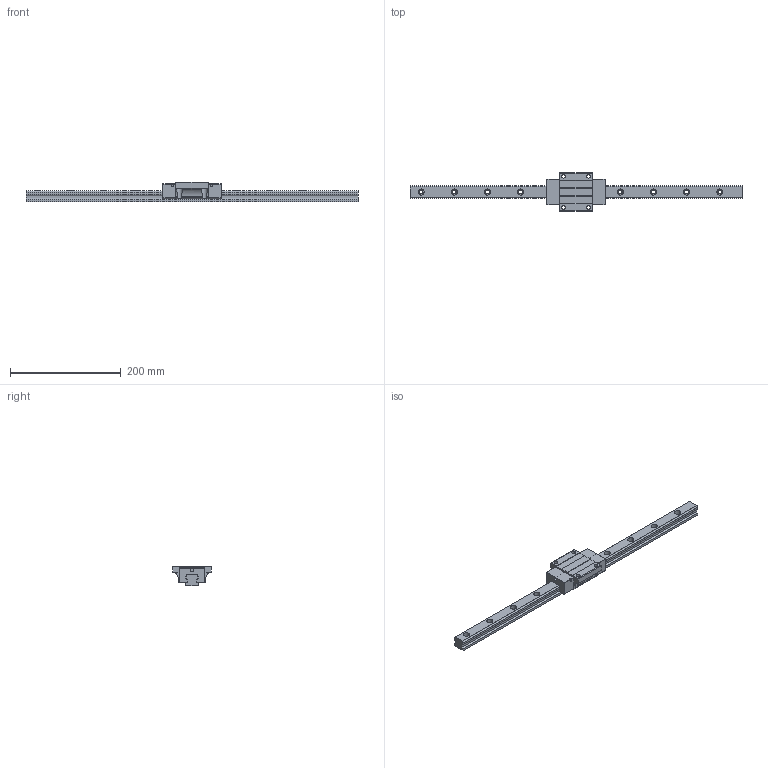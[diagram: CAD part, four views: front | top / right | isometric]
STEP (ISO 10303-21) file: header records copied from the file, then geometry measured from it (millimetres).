
FILE_DESCRIPTION (( 'STEP AP203' ), '1' );
FILE_NAME ('TRH25FN-DZ.STEP', '2024-07-04T06:04:34', ( '' ), ( '' ), 'SwSTEP 2.0', 'SolidWorks 2022', '' );
FILE_SCHEMA (( 'CONFIG_CONTROL_DESIGN' ));
Length unit declared in the file: millimetre
Products named in the file (1): TRH25FN-DZ
Bounding box: 600 x 70 x 36 mm (x, y, z)
Volume: 357069.8 mm3; surface area: 85247.7 mm2
Topology: 2 solids, 2 shells, 230 faces, 622 edges, 408 vertices
Faces by surface type: cylinder 130, plane 96, sphere 4
Entity records: 7829 total; most frequent: CARTESIAN_POINT 1773, DIRECTION 1276, ORIENTED_EDGE 1236, EDGE_CURVE 618, AXIS2_PLACEMENT_3D 459, VERTEX_POINT 408, LINE 358, VECTOR 358
